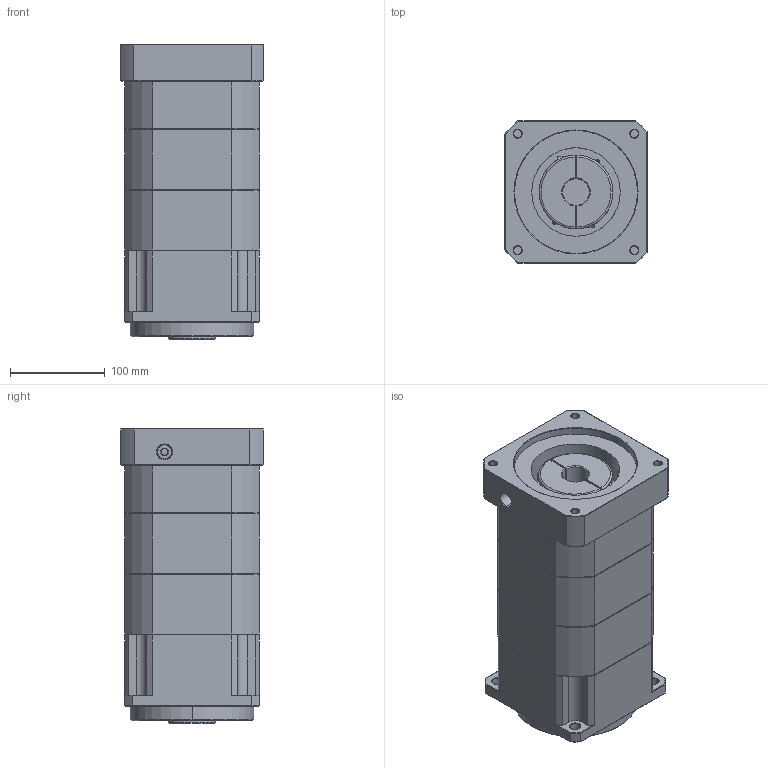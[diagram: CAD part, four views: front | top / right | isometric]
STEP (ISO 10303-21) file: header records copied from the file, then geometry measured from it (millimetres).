
FILE_DESCRIPTION (( 'STEP AP214' ), '1' );
FILE_NAME ('ZPB142-K35-L3-P1-28-130-174-M10.step', '2024-07-05T00:14:17', ( 'Windows 蚚誧' ), ( 'Organization' ), 'SwSTEP 2.0', 'SolidWorks 2016', '' );
FILE_SCHEMA (( 'AUTOMOTIVE_DESIGN' ));
Length unit declared in the file: millimetre
Products named in the file (1): ZPB142-K35-L3-P1-28-130-174-M10
Bounding box: 150 x 150 x 311.5 mm (x, y, z)
Surface area: 258966.1 mm2 (no closed solid volume)
Topology: 0 solids, 36 shells, 1798 faces, 4768 edges, 3046 vertices
Faces by surface type: plane 930, bspline 376, cone 274, cylinder 218
Entity records: 88152 total; most frequent: CARTESIAN_POINT 37909, ORIENTED_EDGE 9532, DIRECTION 7364, EDGE_CURVE 4768, VECTOR 3162, LINE 3162, VERTEX_POINT 3046, AXIS2_PLACEMENT_3D 2101
